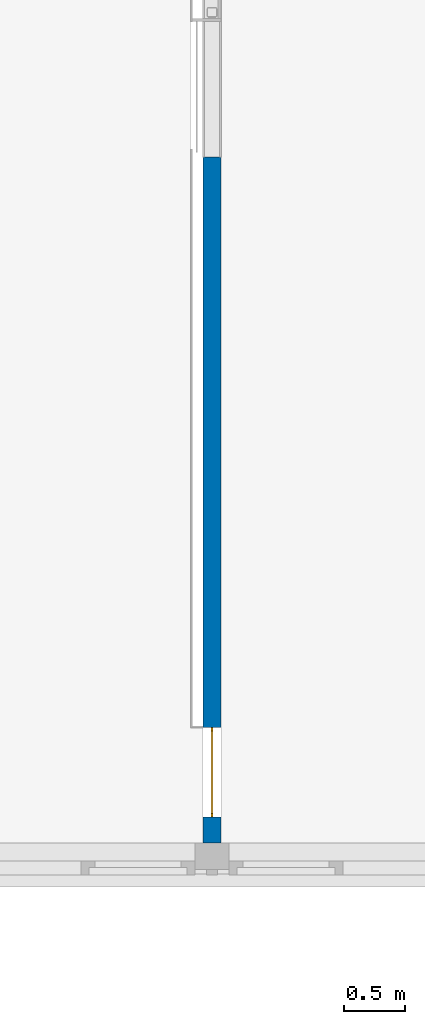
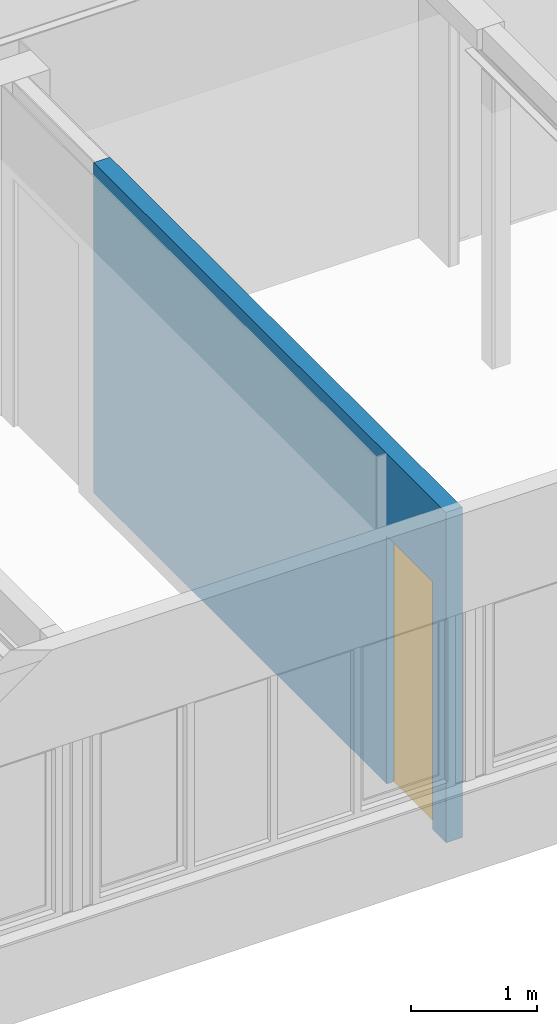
# One storey, part 10 of 99: 1 wall, 1 window, 1 opening.
"""IFC2X3 building model written with IfcOpenShell, lengths in millimetres."""

from ifc_helpers import new_model, entity, si_unit, converted_unit, derived_unit, money_unit, direction, frame, origin_with_axes, place, context, subcontext, project, spatial, open_shell, faceted_brep, surface_model, source, transform, mapped, material, type_object, type_shapes, element, fill, save


model = new_model("IFC2X3")

# Units and contexts
model_context = context("Model", 3, precision=0.01, world=origin_with_axes(), true_north=direction((0.0, 1.0)))
body_context = subcontext(model_context, "Body", "Model", "MODEL_VIEW")
ifc_project = project(units=[si_unit("LENGTHUNIT", "METRE", prefix="MILLI"), si_unit("AREAUNIT", "SQUARE_METRE"), si_unit("VOLUMEUNIT", "CUBIC_METRE"), converted_unit("PLANEANGLEUNIT", "DEGREE", entity("IfcPlaneAngleMeasure", 0.0174532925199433), si_unit("PLANEANGLEUNIT", "RADIAN"), dimensions=[0, 0, 0, 0, 0, 0, 0]), money_unit("EUR"), converted_unit("TIMEUNIT", "Year", entity("IfcTimeMeasure", 31557600.0), si_unit("TIMEUNIT", "SECOND"), dimensions=[0, 0, 1, 0, 0, 0, 0]), si_unit("MASSUNIT", "GRAM", prefix="KILO"), si_unit("THERMODYNAMICTEMPERATUREUNIT", "DEGREE_CELSIUS"), si_unit("LUMINOUSINTENSITYUNIT", "LUMEN"), si_unit("ENERGYUNIT", "JOULE", prefix="MEGA"), derived_unit("THERMALCONDUCTANCEUNIT", [(si_unit("POWERUNIT", "WATT"), 1), (si_unit("LENGTHUNIT", "METRE"), -1), (si_unit("THERMODYNAMICTEMPERATUREUNIT", "KELVIN"), -1)]), derived_unit("SPECIFICHEATCAPACITYUNIT", [(si_unit("ENERGYUNIT", "JOULE"), 1), (si_unit("MASSUNIT", "GRAM", prefix="KILO"), -1), (si_unit("THERMODYNAMICTEMPERATUREUNIT", "KELVIN"), -1)]), derived_unit("MASSDENSITYUNIT", [(si_unit("MASSUNIT", "GRAM", prefix="KILO"), 1), (si_unit("VOLUMEUNIT", "CUBIC_METRE"), -1)])], contexts=[model_context])

# Site, building, storey
site_placement = place(None, origin_with_axes())
site = spatial("IfcSite", under=ifc_project, at=site_placement, Name="Site", CompositionType="ELEMENT")
building_placement = place(site_placement, origin_with_axes())
building = spatial("IfcBuilding", under=site, at=building_placement, Name="Naam gebouw", CompositionType="ELEMENT")
storey_placement = place(building_placement, frame((0.0, 0.0, 7650.0), z_axis=(0.0, 0.0, 1.0), x_axis=(1.0, 0.0, 0.0)))
storey = spatial("IfcBuildingStorey", under=building, at=storey_placement, Name="2e verdieping N", CompositionType="ELEMENT", Elevation=7650.0)

# Wall, opening, window
ifc_material = material(Name="ALG - CONSTRUCTIEF")
wall_type = type_object("IfcWallType", Name="ALG - CONSTRUCTIEF 150", PredefinedType="NOTDEFINED")
wall_placement = place(storey_placement, frame((43199.99999999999, 10825.91242510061, -99.99999999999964), z_axis=(0.0, 0.0, 1.0), x_axis=(0.0, 1.0, 0.0)))
wall = element("IfcWall", 1, at=wall_placement, inside=storey, type_object=wall_type, material=ifc_material, Name="_Wand-x", context=body_context, shape_type="Brep", body=[
    faceted_brep([(374.9999999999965, -75.00000000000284, 99.99999999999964), (374.9999999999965, -75.00000000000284, 2500.0), (1104.999999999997, -75.00000000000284, 2500.0), (1104.999999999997, -75.00000000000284, 99.99999999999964), (5754.999999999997, -75.00000000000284, 99.99999999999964), (5754.999999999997, -75.00000000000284, 3299.999999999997), (164.9999999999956, -75.00000000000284, 3299.999999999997), (164.9999999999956, -75.00000000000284, 99.99999999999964), (374.9999999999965, 9.99999999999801, 99.99999999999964), (374.9999999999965, 75.00000000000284, 99.99999999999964), (374.9999999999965, 75.00000000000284, 2500.0), (1104.999999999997, 75.00000000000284, 2500.0), (1104.999999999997, 9.99999999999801, 99.99999999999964), (1104.999999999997, 75.00000000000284, 99.99999999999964), (5754.999999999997, 75.00000000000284, 99.99999999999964), (5754.999999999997, 75.00000000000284, 3299.999999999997), (164.9999999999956, 75.00000000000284, 3299.999999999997), (164.9999999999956, 75.00000000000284, 99.99999999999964)], [[[0, 1, 2, 3, 4, 5, 6, 7]], [[1, 0, 8, 9, 10]], [[2, 1, 10, 11]], [[12, 3, 2, 11, 13]], [[3, 12, 13, 14, 4]], [[5, 4, 14, 15]], [[5, 15, 16, 6]], [[16, 17, 7, 6]], [[8, 0, 7, 17, 9]], [[14, 13, 11, 10, 9, 17, 16, 15]]]),
])
opening_placement = place(wall_placement, frame((739.9999999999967, 0.0, 99.99999999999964), z_axis=(0.0, 0.0, 1.0), x_axis=(1.0, 0.0, 0.0)))
opening = element("IfcOpeningElement", 2, at=opening_placement, cuts=wall, Name="_Merk-002", context=body_context, shape_type="Brep", body=[
    faceted_brep([(-365.0000000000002, 9.99999999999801, 0.0), (-365.0000000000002, 9.99999999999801, 2400.0), (-365.0000000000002, 76.00000000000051, 2400.0), (-365.0000000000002, 76.00000000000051, 0.0), (-365.0000000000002, -76.00000000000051, 0.0), (-365.0000000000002, -76.00000000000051, 2400.0), (365.0000000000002, 9.99999999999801, 2400.0), (365.0000000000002, 76.00000000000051, 2400.0), (365.0000000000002, -76.00000000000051, 2400.0), (365.0000000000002, 76.00000000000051, 0.0), (365.0000000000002, 9.99999999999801, 0.0), (365.0000000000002, -76.00000000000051, 0.0)], [[[0, 1, 2, 3]], [[1, 0, 4, 5]], [[6, 7, 2, 1, 5, 8]], [[7, 9, 3, 2]], [[0, 3, 9, 10, 11, 4]], [[5, 4, 11, 8]], [[6, 10, 9, 7]], [[10, 6, 8, 11]]]),
])
window_style = type_object("IfcWindowStyle", Name="R1 26", ConstructionType="NOTDEFINED", OperationType="SINGLE_PANEL", ParameterTakesPrecedence=False, Sizeable=False)
shared_shape = source(origin_with_axes(), body_context, "Body", "SurfaceModel", [
    faceted_brep([(-334.9999999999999, -20.00000000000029, 2370.0), (-334.9999999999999, 0.0, 2370.0), (-365.0, 0.0, 2370.0), (-365.0, -20.00000000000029, 2370.0), (-334.9999999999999, -20.0, 30.0), (-334.9999999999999, 0.0, 30.0), (-365.0, 0.0, 30.0), (-365.0, -20.0, 30.0)], [[[0, 1, 2, 3]], [[4, 5, 1, 0]], [[1, 5, 6, 2]], [[3, 2, 6, 7]], [[0, 3, 7, 4]], [[7, 6, 5, 4]]]),
    faceted_brep([(334.9999999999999, -20.0, 30.0), (334.9999999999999, 0.0, 30.0), (365.0, 0.0, 30.0), (365.0, -20.0, 30.0), (334.9999999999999, -20.00000000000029, 2370.0), (334.9999999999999, 0.0, 2370.0), (365.0, 0.0, 2370.0), (365.0, -20.00000000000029, 2370.0)], [[[0, 1, 2, 3]], [[4, 5, 1, 0]], [[1, 5, 6, 2]], [[3, 2, 6, 7]], [[0, 3, 7, 4]], [[7, 6, 5, 4]]]),
    faceted_brep([(-334.9999999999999, -20.0, 30.0), (-334.9999999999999, 0.0, 30.0), (-365.0, 0.0, 30.0), (-365.0, -20.0, 30.0), (334.9999999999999, -20.0, 30.0), (334.9999999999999, 0.0, 30.0), (365.0, 0.0, 30.0), (365.0, 0.0, 0.0), (-365.0, 0.0, 0.0), (-365.0, -20.0, 0.0), (365.0, -20.0, 0.0), (365.0, -20.0, 30.0)], [[[0, 1, 2, 3]], [[4, 5, 1, 0]], [[1, 5, 6, 7, 8, 2]], [[3, 2, 8, 9]], [[0, 3, 9, 10, 11, 4]], [[11, 6, 5, 4]], [[10, 7, 6, 11]], [[9, 8, 7, 10]]]),
    faceted_brep([(334.9999999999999, -20.00000000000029, 2370.0), (334.9999999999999, 0.0, 2370.0), (365.0, 0.0, 2370.0), (365.0, -20.00000000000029, 2370.0), (-334.9999999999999, -20.00000000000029, 2370.0), (-334.9999999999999, 0.0, 2370.0), (-365.0, 0.0, 2370.0), (-365.0, 0.0, 2400.0), (365.0, 0.0, 2400.0), (365.0, -20.00000000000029, 2400.0), (-365.0, -20.00000000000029, 2400.0), (-365.0, -20.00000000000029, 2370.0)], [[[0, 1, 2, 3]], [[4, 5, 1, 0]], [[1, 5, 6, 7, 8, 2]], [[3, 2, 8, 9]], [[0, 3, 9, 10, 11, 4]], [[11, 6, 5, 4]], [[10, 7, 6, 11]], [[9, 8, 7, 10]]]),
    surface_model("IfcShellBasedSurfaceModel", [(-334.9999999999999, -20.0, 30.0), (334.9999999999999, -20.0, 30.0), (334.9999999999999, -20.00000000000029, 2370.0), (-334.9999999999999, -20.00000000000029, 2370.0)], [open_shell([[[0, 1, 2, 3]]])]),
    surface_model("IfcShellBasedSurfaceModel", [(-334.9999999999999, -10.0, 30.0), (-334.9999999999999, -10.00000000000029, 2370.0), (334.9999999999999, -10.00000000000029, 2370.0), (334.9999999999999, -10.0, 30.0)], [open_shell([[[0, 1, 2, 3]]])]),
])
type_shapes(window_style, [shared_shape])
window_placement = place(opening_placement, frame((365.0000000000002, 0.0, 0.0), z_axis=(0.0, 0.0, 1.0), x_axis=(-1.0, 0.0, 0.0)))
window = element("IfcWindow", 3, at=window_placement, inside=storey, type_object=window_style, Name="_Merk-002", ObjectType="WINDOW", OverallHeight=2400.0, OverallWidth=730.0, context=body_context, shape_type="MappedRepresentation", body=[
    mapped(shared_shape, transform((365.0000000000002, 10.00000000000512, 0.0))),
])
fill(opening, window)

save(model, "model.ifc")
